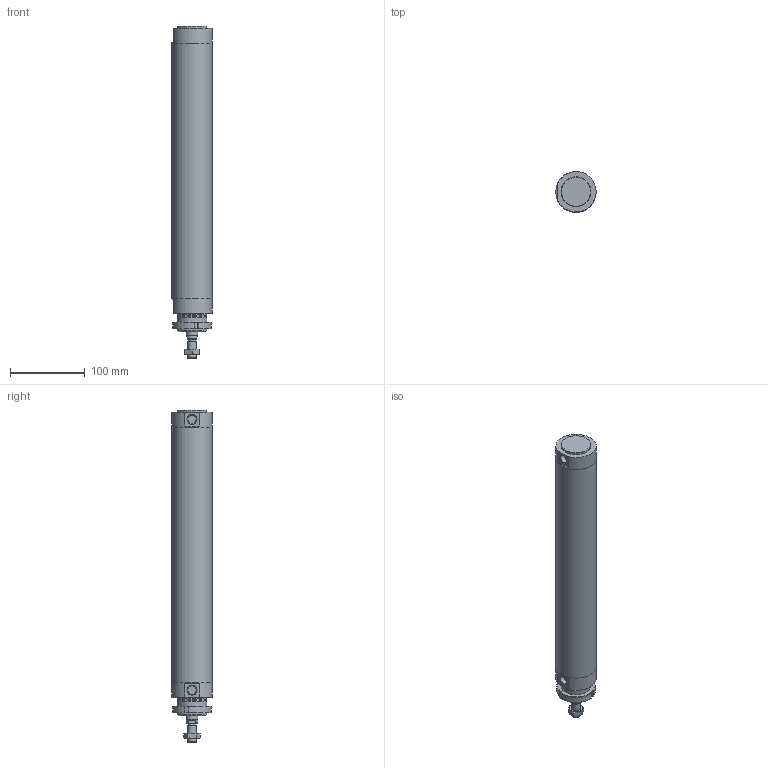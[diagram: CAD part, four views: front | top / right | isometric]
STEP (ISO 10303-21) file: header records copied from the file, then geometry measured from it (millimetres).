
FILE_DESCRIPTION(/* description */ (''),/* implementation_level */ '2;1');
FILE_NAME(/* name */ 'I:\Area Tecnica\Documenti\A-Manieri\_Inventor\12X\12X#D_###_####_#_#\12XAD_050_0300_#_#.stp',/* time_stamp */ '2015-04-29T16:44:29+02:00',/* author */ ('maniean1'),/* organization */ ('Pneumax S.p.A.'),/* preprocessor_version */ 'ST-DEVELOPER v15.2',/* originating_system */ 'Autodesk Inventor 2014',/* authorisation */ '');
FILE_SCHEMA (('AUTOMOTIVE_DESIGN { 1 0 10303 214 3 1 1 }'));
Length unit declared in the file: millimetre
Products named in the file (7): C1250_619-0300; 12X50_604; S12X50_0300; 12X_50_11; 12X50_611; G12X_050_05; 12XAD_050_0300_#_#
Bounding box: 54 x 54 x 445 mm (x, y, z)
Volume: 393805.7 mm3; surface area: 168629 mm2
Topology: 6 solids, 6 shells, 81 faces, 175 edges, 112 vertices
Faces by surface type: plane 41, cylinder 21, cone 19
Full cylindrical faces by diameter (mm): 10.2 x1, 11.4 x2, 12 x2, 14 x1, 15.6 x1, 16 x1, 38.2 x1, 40 x4, 50 x2, 54 x3
Entity records: 2155 total; most frequent: CARTESIAN_POINT 400, DIRECTION 364, ORIENTED_EDGE 284, AXIS2_PLACEMENT_3D 156, EDGE_CURVE 142, EDGE_LOOP 124, VERTEX_POINT 108, ADVANCED_FACE 81
